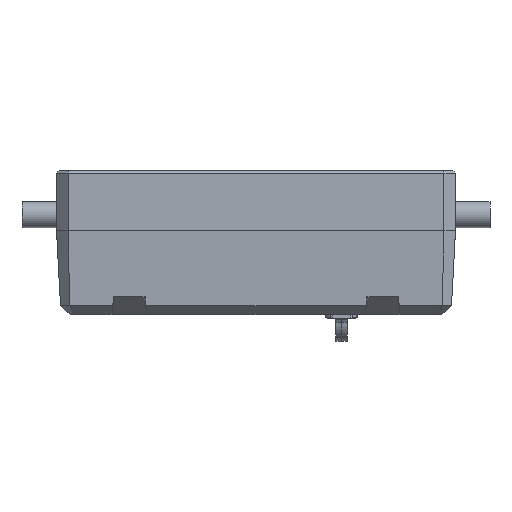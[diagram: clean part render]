
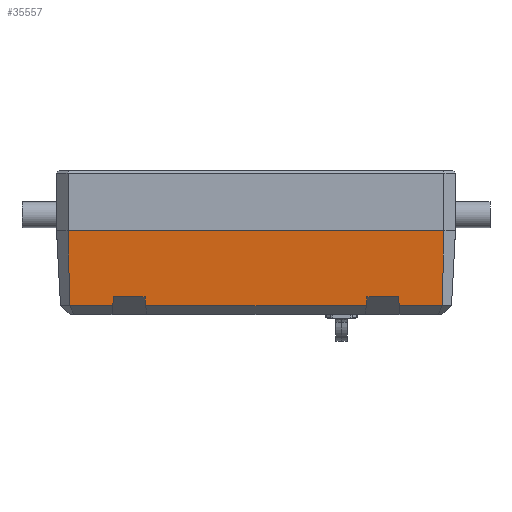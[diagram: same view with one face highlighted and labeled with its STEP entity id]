
A CAD part, top view. The second image highlights one B-rep face of the part: STEP entity #35557.
In plain terms, the highlighted planar face has unit normal (0, -0.052, 0.999).
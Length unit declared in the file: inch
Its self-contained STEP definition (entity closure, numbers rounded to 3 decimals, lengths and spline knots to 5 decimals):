
#439 = DIRECTION ( 'NONE',  ( -0.087, 0.995, 0.052 ) ) ;
#442 = LINE ( 'NONE', #29473, #26075 ) ;
#534 = VERTEX_POINT ( 'NONE', #13444 ) ;
#829 = CARTESIAN_POINT ( 'NONE',  ( 0.97909, -0.01977, 0.65231 ) ) ;
#1459 = CARTESIAN_POINT ( 'NONE',  ( 0.97909, -0.01977, 0.65231 ) ) ;
#2147 = PLANE ( 'NONE',  #6918 ) ;
#2433 = LINE ( 'NONE', #3737, #25312 ) ;
#3303 = CARTESIAN_POINT ( 'NONE',  ( 0.74803, 0.04122, 0.6555 ) ) ;
#3331 = LINE ( 'NONE', #829, #13653 ) ;
#3737 = CARTESIAN_POINT ( 'NONE',  ( 0., -0.01977, 0.65231 ) ) ;
#4685 = CARTESIAN_POINT ( 'NONE',  ( -0.74803, 0.04122, 0.6555 ) ) ;
#5049 = LINE ( 'NONE', #4685, #23096 ) ;
#5381 = EDGE_CURVE ( 'NONE', #36973, #21673, #9247, .T. ) ;
#5498 = VERTEX_POINT ( 'NONE', #33846 ) ;
#5891 = ORIENTED_EDGE ( 'NONE', *, *, #8477, .F. ) ;
#6676 = DIRECTION ( 'NONE',  ( -0.087, 0.995, 0.052 ) ) ;
#6769 = VECTOR ( 'NONE', #16864, 39.37008 ) ;
#6918 = AXIS2_PLACEMENT_3D ( 'NONE', #28676, #37097, #16642 ) ;
#8041 = DIRECTION ( 'NONE',  ( 1., 0., 0. ) ) ;
#8477 = EDGE_CURVE ( 'NONE', #27531, #28471, #33639, .T. ) ;
#8605 = LINE ( 'NONE', #20230, #36958 ) ;
#8746 = ORIENTED_EDGE ( 'NONE', *, *, #14927, .T. ) ;
#9243 = DIRECTION ( 'NONE',  ( 0.022, 0.998, 0.052 ) ) ;
#9247 = LINE ( 'NONE', #20882, #21397 ) ;
#10414 = CARTESIAN_POINT ( 'NONE',  ( -1.28445, 0.49213, 0.67913 ) ) ;
#10625 = DIRECTION ( 'NONE',  ( 1., 0., 0. ) ) ;
#10673 = EDGE_CURVE ( 'NONE', #36973, #11646, #29441, .T. ) ;
#11537 = EDGE_CURVE ( 'NONE', #36253, #11646, #3331, .T. ) ;
#11646 = VERTEX_POINT ( 'NONE', #28102 ) ;
#11977 = CARTESIAN_POINT ( 'NONE',  ( 1.28445, 0.49213, 0.67913 ) ) ;
#12745 = ORIENTED_EDGE ( 'NONE', *, *, #17860, .T. ) ;
#12821 = EDGE_LOOP ( 'NONE', ( #5891, #20978, #18180, #8746, #27281, #29415, #31059, #12745, #35043, #25094, #26355, #17288 ) ) ;
#13444 = CARTESIAN_POINT ( 'NONE',  ( -0.75853, 0.04122, 0.6555 ) ) ;
#13601 = VECTOR ( 'NONE', #37673, 39.37008 ) ;
#13653 = VECTOR ( 'NONE', #439, 39.37008 ) ;
#13828 = VERTEX_POINT ( 'NONE', #20938 ) ;
#14927 = EDGE_CURVE ( 'NONE', #29187, #21673, #8605, .T. ) ;
#15508 = VERTEX_POINT ( 'NONE', #11977 ) ;
#16642 = DIRECTION ( 'NONE',  ( -1., 0., 0. ) ) ;
#16665 = CARTESIAN_POINT ( 'NONE',  ( -1.36319, 0.49213, 0.67913 ) ) ;
#16864 = DIRECTION ( 'NONE',  ( 0.022, -0.998, -0.052 ) ) ;
#17255 = EDGE_CURVE ( 'NONE', #32841, #15508, #442, .T. ) ;
#17288 = ORIENTED_EDGE ( 'NONE', *, *, #37498, .T. ) ;
#17860 = EDGE_CURVE ( 'NONE', #36253, #32841, #31249, .T. ) ;
#18180 = ORIENTED_EDGE ( 'NONE', *, *, #31558, .F. ) ;
#18980 = LINE ( 'NONE', #10414, #6769 ) ;
#19284 = EDGE_CURVE ( 'NONE', #534, #27531, #5049, .T. ) ;
#19995 = VECTOR ( 'NONE', #10625, 39.37008 ) ;
#20225 = DIRECTION ( 'NONE',  ( -1., 0., 0. ) ) ;
#20230 = CARTESIAN_POINT ( 'NONE',  ( 0., -0.01977, 0.65231 ) ) ;
#20484 = EDGE_CURVE ( 'NONE', #5498, #13828, #18980, .T. ) ;
#20836 = CARTESIAN_POINT ( 'NONE',  ( 0.75319, -0.01977, 0.65231 ) ) ;
#20882 = CARTESIAN_POINT ( 'NONE',  ( 0.75853, 0.04122, 0.6555 ) ) ;
#20938 = CARTESIAN_POINT ( 'NONE',  ( -1.27334, -0.01977, 0.65231 ) ) ;
#20978 = ORIENTED_EDGE ( 'NONE', *, *, #19284, .F. ) ;
#21397 = VECTOR ( 'NONE', #32548, 39.37008 ) ;
#21673 = VERTEX_POINT ( 'NONE', #20836 ) ;
#21784 = DIRECTION ( 'NONE',  ( -0.087, -0.995, -0.052 ) ) ;
#22059 = LINE ( 'NONE', #29975, #33221 ) ;
#22372 = FACE_OUTER_BOUND ( 'NONE', #12821, .T. ) ;
#23096 = VECTOR ( 'NONE', #33510, 39.37008 ) ;
#23527 = VECTOR ( 'NONE', #20225, 39.37008 ) ;
#24285 = CARTESIAN_POINT ( 'NONE',  ( -0.97376, 0.04122, 0.6555 ) ) ;
#24753 = CARTESIAN_POINT ( 'NONE',  ( 0., -0.01977, 0.65231 ) ) ;
#25094 = ORIENTED_EDGE ( 'NONE', *, *, #33996, .T. ) ;
#25312 = VECTOR ( 'NONE', #32029, 39.37008 ) ;
#26075 = VECTOR ( 'NONE', #9243, 39.37008 ) ;
#26355 = ORIENTED_EDGE ( 'NONE', *, *, #20484, .T. ) ;
#27281 = ORIENTED_EDGE ( 'NONE', *, *, #5381, .F. ) ;
#27531 = VERTEX_POINT ( 'NONE', #32095 ) ;
#28102 = CARTESIAN_POINT ( 'NONE',  ( 0.97376, 0.04122, 0.6555 ) ) ;
#28471 = VERTEX_POINT ( 'NONE', #37491 ) ;
#28676 = CARTESIAN_POINT ( 'NONE',  ( -1.36319, 0.49213, 0.67913 ) ) ;
#28790 = CARTESIAN_POINT ( 'NONE',  ( -0.75319, -0.01977, 0.65231 ) ) ;
#29187 = VERTEX_POINT ( 'NONE', #28790 ) ;
#29415 = ORIENTED_EDGE ( 'NONE', *, *, #10673, .T. ) ;
#29441 = LINE ( 'NONE', #3303, #13601 ) ;
#29473 = CARTESIAN_POINT ( 'NONE',  ( 1.27334, -0.01977, 0.65231 ) ) ;
#29975 = CARTESIAN_POINT ( 'NONE',  ( -0.75319, -0.01977, 0.65231 ) ) ;
#31059 = ORIENTED_EDGE ( 'NONE', *, *, #11537, .F. ) ;
#31249 = LINE ( 'NONE', #24753, #19995 ) ;
#31319 = CARTESIAN_POINT ( 'NONE',  ( 0.75853, 0.04122, 0.6555 ) ) ;
#31558 = EDGE_CURVE ( 'NONE', #29187, #534, #22059, .T. ) ;
#32029 = DIRECTION ( 'NONE',  ( 1., 0., 0. ) ) ;
#32095 = CARTESIAN_POINT ( 'NONE',  ( -0.97376, 0.04122, 0.6555 ) ) ;
#32548 = DIRECTION ( 'NONE',  ( -0.087, -0.995, -0.052 ) ) ;
#32841 = VERTEX_POINT ( 'NONE', #35579 ) ;
#33221 = VECTOR ( 'NONE', #6676, 39.37008 ) ;
#33510 = DIRECTION ( 'NONE',  ( -1., 0., 0. ) ) ;
#33639 = LINE ( 'NONE', #24285, #37340 ) ;
#33846 = CARTESIAN_POINT ( 'NONE',  ( -1.28445, 0.49213, 0.67913 ) ) ;
#33996 = EDGE_CURVE ( 'NONE', #15508, #5498, #37642, .T. ) ;
#35043 = ORIENTED_EDGE ( 'NONE', *, *, #17255, .T. ) ;
#35557 = ADVANCED_FACE ( 'NONE', ( #22372 ), #2147, .T. ) ;
#35579 = CARTESIAN_POINT ( 'NONE',  ( 1.27334, -0.01977, 0.65231 ) ) ;
#36253 = VERTEX_POINT ( 'NONE', #1459 ) ;
#36958 = VECTOR ( 'NONE', #8041, 39.37008 ) ;
#36973 = VERTEX_POINT ( 'NONE', #31319 ) ;
#37097 = DIRECTION ( 'NONE',  ( 0., -0.052, 0.999 ) ) ;
#37340 = VECTOR ( 'NONE', #21784, 39.37008 ) ;
#37491 = CARTESIAN_POINT ( 'NONE',  ( -0.97909, -0.01977, 0.65231 ) ) ;
#37498 = EDGE_CURVE ( 'NONE', #13828, #28471, #2433, .T. ) ;
#37642 = LINE ( 'NONE', #16665, #23527 ) ;
#37673 = DIRECTION ( 'NONE',  ( 1., 0., 0. ) ) ;
